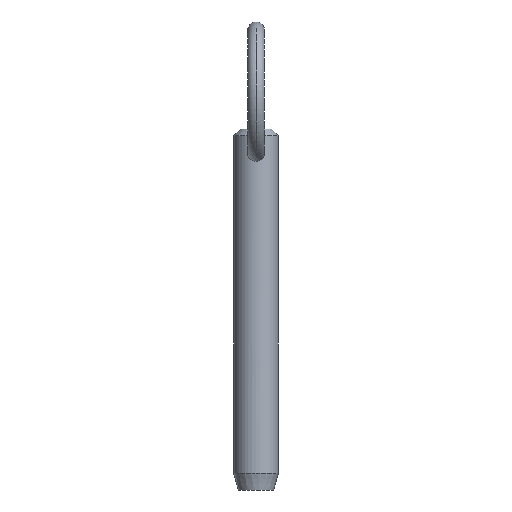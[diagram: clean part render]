
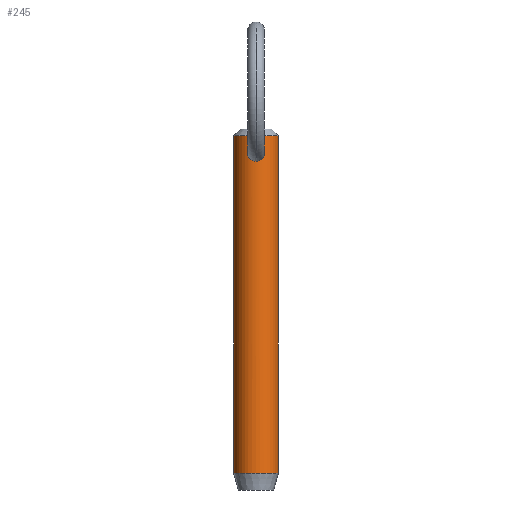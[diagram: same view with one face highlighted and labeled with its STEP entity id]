
A CAD part, front view. The second image highlights one B-rep face of the part: STEP entity #245.
In plain terms, the highlighted cylindrical face has radius 3.965 mm (diameter 7.93 mm), a partial arc.
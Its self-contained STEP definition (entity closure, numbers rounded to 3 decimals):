
#6 = AXIS2_PLACEMENT_3D ( 'NONE', #261, #10, #461 ) ;
#7 = EDGE_CURVE ( 'NONE', #350, #45, #477, .T. ) ;
#10 = DIRECTION ( 'NONE',  ( 0., 0., -1. ) ) ;
#17 = CARTESIAN_POINT ( 'NONE',  ( 0., 0., 53.45 ) ) ;
#25 = EDGE_CURVE ( 'NONE', #45, #445, #492, .T. ) ;
#28 = DIRECTION ( 'NONE',  ( 0., 0., -1. ) ) ;
#39 = CARTESIAN_POINT ( 'NONE',  ( 0., -3.965, 52.147 ) ) ;
#45 = VERTEX_POINT ( 'NONE', #476 ) ;
#53 = CARTESIAN_POINT ( 'NONE',  ( 0.782, -3.888, 49.137 ) ) ;
#56 = CARTESIAN_POINT ( 'NONE',  ( 1.447, -3.692, 49.993 ) ) ;
#58 = CARTESIAN_POINT ( 'NONE',  ( -1.441, -3.695, 50.908 ) ) ;
#62 = CARTESIAN_POINT ( 'NONE',  ( -0.205, -3.965, 48.935 ) ) ;
#63 = CARTESIAN_POINT ( 'NONE',  ( -1.379, -3.718, 49.803 ) ) ;
#64 = CARTESIAN_POINT ( 'NONE',  ( -1.168, -3.79, 49.459 ) ) ;
#72 = ORIENTED_EDGE ( 'NONE', *, *, #425, .T. ) ;
#75 = CARTESIAN_POINT ( 'NONE',  ( 0.498, -3.935, 52.044 ) ) ;
#87 = CARTESIAN_POINT ( 'NONE',  ( 1.503, -3.669, 50.399 ) ) ;
#91 = CARTESIAN_POINT ( 'NONE',  ( 0.205, -3.965, 48.935 ) ) ;
#93 = CARTESIAN_POINT ( 'NONE',  ( 0.949, -3.851, 49.249 ) ) ;
#94 = DIRECTION ( 'NONE',  ( 0., 0., -1. ) ) ;
#96 = VECTOR ( 'NONE', #28, 1000. ) ;
#97 = CARTESIAN_POINT ( 'NONE',  ( -0.41, -3.948, 48.974 ) ) ;
#102 = CARTESIAN_POINT ( 'NONE',  ( -1.48, -3.679, 50.089 ) ) ;
#107 = CARTESIAN_POINT ( 'NONE',  ( 0., 0., -6.52 ) ) ;
#108 = VERTEX_POINT ( 'NONE', #283 ) ;
#122 = EDGE_CURVE ( 'NONE', #108, #445, #378, .T. ) ;
#123 = CARTESIAN_POINT ( 'NONE',  ( 1.291, -3.75, 51.283 ) ) ;
#138 = DIRECTION ( 'NONE',  ( 1., 0., 0. ) ) ;
#144 = AXIS2_PLACEMENT_3D ( 'NONE', #107, #431, #506 ) ;
#147 = CARTESIAN_POINT ( 'NONE',  ( 0., -3.965, 52.147 ) ) ;
#154 = EDGE_CURVE ( 'NONE', #252, #258, #377, .T. ) ;
#166 = ORIENTED_EDGE ( 'NONE', *, *, #7, .T. ) ;
#174 = B_SPLINE_CURVE_WITH_KNOTS ( 'NONE', 3,
 ( #304, #62, #97, #187, #306, #64, #347, #463, #63, #102, #265, #386, #58, #457, #301, #388, #423, #262, #490, #381, #418, #385 ),
 .UNSPECIFIED., .F., .F.,
 ( 4, 2, 2, 2, 2, 2, 2, 2, 2, 2, 4 ),
 ( 0.009, 0.01, 0.01, 0.011, 0.011, 0.012, 0.012, 0.013, 0.013, 0.014, 0.014 ),
 .UNSPECIFIED. ) ;
#175 = CARTESIAN_POINT ( 'NONE',  ( 0.693, -3.905, 49.09 ) ) ;
#179 = CARTESIAN_POINT ( 'NONE',  ( 1.499, -3.671, 50.297 ) ) ;
#187 = CARTESIAN_POINT ( 'NONE',  ( -0.788, -3.891, 49.128 ) ) ;
#201 = CARTESIAN_POINT ( 'NONE',  ( 0.404, -3.946, 52.082 ) ) ;
#205 = EDGE_LOOP ( 'NONE', ( #344, #479, #166, #439 ) ) ;
#210 = EDGE_CURVE ( 'NONE', #108, #350, #238, .T. ) ;
#238 = CIRCLE ( 'NONE', #422, 3.965 ) ;
#245 = ADVANCED_FACE ( 'NONE', ( #408, #278 ), #372, .T. ) ;
#248 = CARTESIAN_POINT ( 'NONE',  ( 0.77, -3.894, 51.9 ) ) ;
#252 = VERTEX_POINT ( 'NONE', #147 ) ;
#256 = CARTESIAN_POINT ( 'NONE',  ( 1.346, -3.73, 49.708 ) ) ;
#257 = CARTESIAN_POINT ( 'NONE',  ( 0., -3.965, 48.935 ) ) ;
#258 = VERTEX_POINT ( 'NONE', #462 ) ;
#259 = CARTESIAN_POINT ( 'NONE',  ( 1.237, -3.77, 49.531 ) ) ;
#261 = CARTESIAN_POINT ( 'NONE',  ( 0., 0., 48.3 ) ) ;
#262 = CARTESIAN_POINT ( 'NONE',  ( -0.498, -3.935, 52.044 ) ) ;
#265 = CARTESIAN_POINT ( 'NONE',  ( -1.508, -3.667, 50.297 ) ) ;
#275 = ORIENTED_EDGE ( 'NONE', *, *, #154, .T. ) ;
#278 = FACE_BOUND ( 'NONE', #430, .T. ) ;
#283 = CARTESIAN_POINT ( 'NONE',  ( 3.965, 0., 53.45 ) ) ;
#287 = CARTESIAN_POINT ( 'NONE',  ( 0.205, -3.961, 52.134 ) ) ;
#298 = CARTESIAN_POINT ( 'NONE',  ( 0.409, -3.948, 48.974 ) ) ;
#301 = CARTESIAN_POINT ( 'NONE',  ( -1.186, -3.786, 51.46 ) ) ;
#304 = CARTESIAN_POINT ( 'NONE',  ( 0., -3.965, 48.935 ) ) ;
#306 = CARTESIAN_POINT ( 'NONE',  ( -0.957, -3.85, 49.241 ) ) ;
#309 = CARTESIAN_POINT ( 'NONE',  ( -3.965, 0., 53.45 ) ) ;
#326 = CARTESIAN_POINT ( 'NONE',  ( 0.925, -3.858, 51.768 ) ) ;
#343 = CARTESIAN_POINT ( 'NONE',  ( 3.965, 0., -6.52 ) ) ;
#344 = ORIENTED_EDGE ( 'NONE', *, *, #122, .F. ) ;
#347 = CARTESIAN_POINT ( 'NONE',  ( -1.229, -3.77, 49.539 ) ) ;
#350 = VERTEX_POINT ( 'NONE', #309 ) ;
#360 = DIRECTION ( 'NONE',  ( 0., 0., -1. ) ) ;
#369 = CARTESIAN_POINT ( 'NONE',  ( 1.186, -3.786, 51.459 ) ) ;
#372 = CYLINDRICAL_SURFACE ( 'NONE', #6, 3.965 ) ;
#377 = B_SPLINE_CURVE_WITH_KNOTS ( 'NONE', 3,
 ( #39, #404, #287, #201, #75, #248, #326, #369, #123, #405, #446, #412, #485, #87, #179, #380, #56, #256, #259, #488, #93, #53, #175, #298, #91, #257 ),
 .UNSPECIFIED., .F., .F.,
 ( 4, 2, 2, 2, 2, 2, 2, 2, 2, 2, 2, 2, 4 ),
 ( 0.004, 0.005, 0.005, 0.005, 0.006, 0.006, 0.007, 0.007, 0.007, 0.008, 0.008, 0.008, 0.009 ),
 .UNSPECIFIED. ) ;
#378 = LINE ( 'NONE', #397, #458 ) ;
#380 = CARTESIAN_POINT ( 'NONE',  ( 1.471, -3.682, 50.094 ) ) ;
#381 = CARTESIAN_POINT ( 'NONE',  ( -0.206, -3.961, 52.134 ) ) ;
#385 = CARTESIAN_POINT ( 'NONE',  ( 0., -3.965, 52.147 ) ) ;
#386 = CARTESIAN_POINT ( 'NONE',  ( -1.488, -3.675, 50.705 ) ) ;
#388 = CARTESIAN_POINT ( 'NONE',  ( -0.925, -3.858, 51.768 ) ) ;
#397 = CARTESIAN_POINT ( 'NONE',  ( 3.965, 0., 48.3 ) ) ;
#404 = CARTESIAN_POINT ( 'NONE',  ( 0.102, -3.965, 52.147 ) ) ;
#405 = CARTESIAN_POINT ( 'NONE',  ( 1.404, -3.708, 51.001 ) ) ;
#408 = FACE_OUTER_BOUND ( 'NONE', #205, .T. ) ;
#412 = CARTESIAN_POINT ( 'NONE',  ( 1.479, -3.679, 50.707 ) ) ;
#418 = CARTESIAN_POINT ( 'NONE',  ( -0.102, -3.965, 52.147 ) ) ;
#422 = AXIS2_PLACEMENT_3D ( 'NONE', #17, #94, #138 ) ;
#423 = CARTESIAN_POINT ( 'NONE',  ( -0.77, -3.894, 51.9 ) ) ;
#425 = EDGE_CURVE ( 'NONE', #258, #252, #174, .T. ) ;
#427 = CARTESIAN_POINT ( 'NONE',  ( -3.965, 0., 48.3 ) ) ;
#430 = EDGE_LOOP ( 'NONE', ( #275, #72 ) ) ;
#431 = DIRECTION ( 'NONE',  ( 0., 0., 1. ) ) ;
#439 = ORIENTED_EDGE ( 'NONE', *, *, #25, .T. ) ;
#445 = VERTEX_POINT ( 'NONE', #343 ) ;
#446 = CARTESIAN_POINT ( 'NONE',  ( 1.434, -3.697, 50.905 ) ) ;
#457 = CARTESIAN_POINT ( 'NONE',  ( -1.29, -3.75, 51.285 ) ) ;
#458 = VECTOR ( 'NONE', #360, 1000. ) ;
#461 = DIRECTION ( 'NONE',  ( -1., 0., 0. ) ) ;
#462 = CARTESIAN_POINT ( 'NONE',  ( 0., -3.965, 48.935 ) ) ;
#463 = CARTESIAN_POINT ( 'NONE',  ( -1.335, -3.734, 49.71 ) ) ;
#476 = CARTESIAN_POINT ( 'NONE',  ( -3.965, 0., -6.52 ) ) ;
#477 = LINE ( 'NONE', #427, #96 ) ;
#479 = ORIENTED_EDGE ( 'NONE', *, *, #210, .T. ) ;
#485 = CARTESIAN_POINT ( 'NONE',  ( 1.493, -3.673, 50.604 ) ) ;
#488 = CARTESIAN_POINT ( 'NONE',  ( 1.028, -3.83, 49.315 ) ) ;
#490 = CARTESIAN_POINT ( 'NONE',  ( -0.403, -3.946, 52.082 ) ) ;
#492 = CIRCLE ( 'NONE', #144, 3.965 ) ;
#506 = DIRECTION ( 'NONE',  ( -1., 0., 0. ) ) ;
